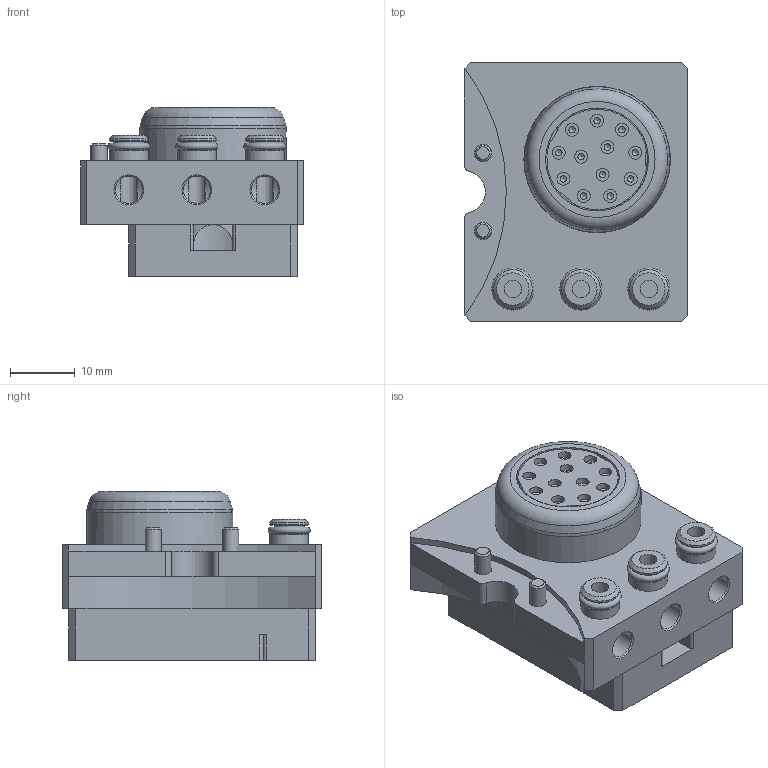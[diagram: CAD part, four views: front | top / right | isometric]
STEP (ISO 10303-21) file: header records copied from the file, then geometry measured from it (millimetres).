
FILE_DESCRIPTION(/* description */ (''),/* implementation_level */ '2;1');
FILE_NAME(/* name */ 'T:\Engineering\Homepage\Homepage 2020\4 3D Step-Daten - Homepage\5 MEK\G-MEK063-U-3PM5-1E12.stp',/* time_stamp */ '2023-01-06T11:56:07+01:00',/* author */ ('ysplieth'),/* organization */ (''),/* preprocessor_version */ 'ST-DEVELOPER v17',/* originating_system */ 'Autodesk Inventor 2018',/* authorisation */ '');
FILE_SCHEMA (('AUTOMOTIVE_DESIGN { 1 0 10303 214 3 1 1 }'));
Length unit declared in the file: millimetre
Products named in the file (1): Bauteil3
Bounding box: 34.5 x 40 x 26.1 mm (x, y, z)
Volume: 19693.8 mm3; surface area: 12235.5 mm2
Topology: 1 solids, 5 shells, 401 faces, 1154 edges, 771 vertices
Faces by surface type: plane 178, cylinder 134, cone 60, torus 29
Full cylindrical faces by diameter (mm): 1 x12, 1.6 x12, 2 x26, 2.5 x4, 2.7 x5, 3 x4, 3.4 x4, 4.2 x3, 4.5 x2, 4.6 x6, 5 x2, 5.5 x2, 6 x10, 14 x1, 15.9 x1, 17 x1, 17.1 x1, 18.2 x1, 22.6 x1
Entity records: 15324 total; most frequent: CARTESIAN_POINT 4038, DIRECTION 2313, ORIENTED_EDGE 2268, EDGE_CURVE 1134, AXIS2_PLACEMENT_3D 897, VERTEX_POINT 768, LINE 519, VECTOR 519
